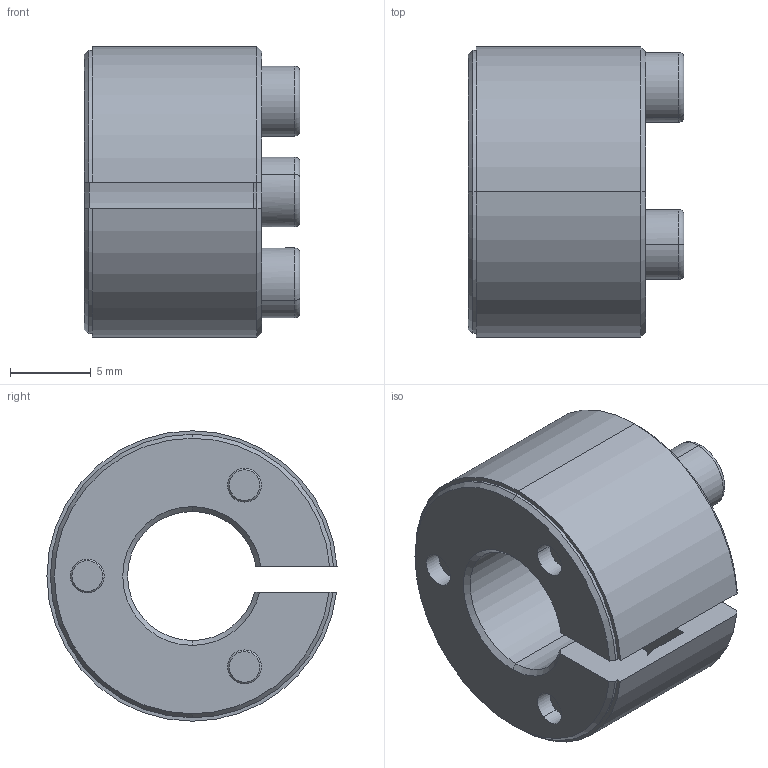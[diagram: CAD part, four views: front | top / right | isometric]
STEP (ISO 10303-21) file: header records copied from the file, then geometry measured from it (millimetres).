
FILE_DESCRIPTION (( 'STEP AP214' ), '1' );
FILE_NAME ('SAPL-E-08X18.STEP', '2024-07-12T01:56:57', ( '决扁浅何厘' ), ( '' ), 'SwSTEP 2.0', 'SolidWorks 2024', '' );
FILE_SCHEMA (( 'AUTOMOTIVE_DESIGN' ));
Length unit declared in the file: millimetre
Products named in the file (1): SAPL-E-08X18
Bounding box: 13.37 x 17.98 x 18 mm (x, y, z)
Volume: 1858.3 mm3; surface area: 2250.5 mm2
Topology: 1 solids, 1 shells, 120 faces, 301 edges, 192 vertices
Faces by surface type: plane 41, cylinder 40, cone 33, torus 6
Entity records: 3809 total; most frequent: CARTESIAN_POINT 806, DIRECTION 661, ORIENTED_EDGE 602, EDGE_CURVE 301, AXIS2_PLACEMENT_3D 264, VERTEX_POINT 192, CIRCLE 143, EDGE_LOOP 141
